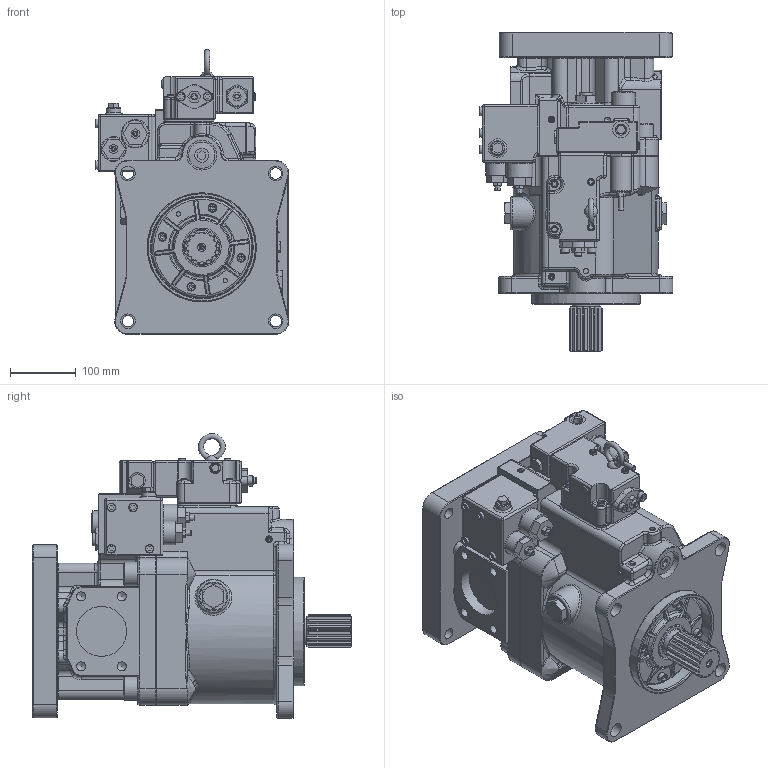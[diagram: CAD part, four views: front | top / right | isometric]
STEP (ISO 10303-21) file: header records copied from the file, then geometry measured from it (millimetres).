
FILE_DESCRIPTION((''),'2;1');
FILE_NAME('I:\PM\PUMP\K3VL200\K3VL200B-1ELFM-L01-1-E0\K3VL200B-1ELFM-L01-1-E0.stp','2007-03-26T12:00:19',('ACUSER'),(''),'Autodesk Inventor 11','Autodesk Inventor 11','');
FILE_SCHEMA(('AUTOMOTIVE_DESIGN { 1 0 10303 214 1 1 1 1 }'));
Length unit declared in the file: millimetre
Products named in the file (1): K3VL200B-1ELFM-L01-1-E0
Bounding box: 294.2 x 485 x 432.75 mm (x, y, z)
Volume: 21487739 mm3; surface area: 953632.2 mm2
Topology: 4 solids, 43 shells, 2279 faces, 5419 edges, 3290 vertices
Faces by surface type: plane 974, bspline 529, cylinder 423, cone 245, torus 88, sphere 20
Full cylindrical faces by diameter (mm): 4 x1, 6.669 x1, 7.5 x1, 8 x6, 10 x6, 12 x9, 12.5 x1, 12.9 x1, 13 x10, 18 x8, 20 x1, 22 x1, 24 x6, 25 x1, 27.751 x1, 29.36 x1, 31.8 x1, 36 x6, 40 x1, 41 x1, 42 x1, 50 x1, 55 x1, 59 x1, 125 x1, 133.2 x1, 152 x1, 165.1 x1
Entity records: 100900 total; most frequent: CARTESIAN_POINT 52787, ORIENTED_EDGE 9758, DIRECTION 9677, EDGE_CURVE 4879, AXIS2_PLACEMENT_3D 3636, VERTEX_POINT 3117, EDGE_LOOP 2766, VECTOR 2405
